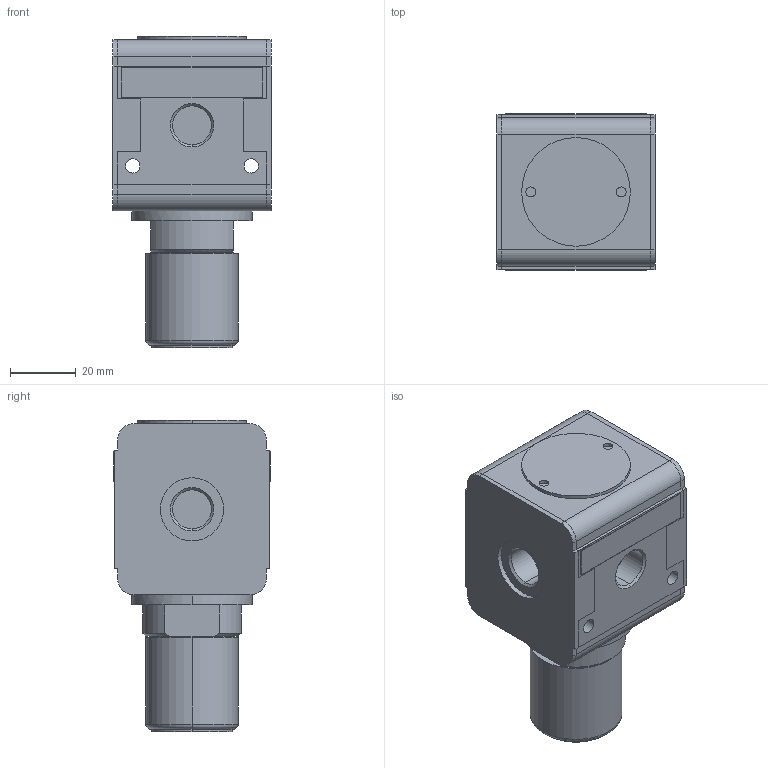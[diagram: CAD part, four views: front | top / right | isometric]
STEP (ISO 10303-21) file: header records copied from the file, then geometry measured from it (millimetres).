
FILE_DESCRIPTION((''),'2;1');
FILE_NAME('R412007613_ASM','2020-01-02T',('hug2hc'),(''),'CREO PARAMETRIC BY PTC INC, 2016260','CREO PARAMETRIC BY PTC INC, 2016260','');
FILE_SCHEMA(('CONFIG_CONTROL_DESIGN'));
Length unit declared in the file: millimetre
Products named in the file (3): R412007613-A; R412007613-B; R412007613_ASM
Assembly tree (3 placements, depth 2):
  R412007613_ASM
    R412007613-A
    R412007613-B  x2
Bounding box: 48 x 47.4 x 94.5 mm (x, y, z)
Volume: 137289.7 mm3; surface area: 30330.3 mm2
Topology: 3 solids, 3 shells, 162 faces, 416 edges, 274 vertices
Faces by surface type: plane 106, cylinder 42, cone 12, torus 2
Entity records: 4165 total; most frequent: CARTESIAN_POINT 742, DIRECTION 704, ORIENTED_EDGE 676, EDGE_CURVE 338, VECTOR 240, LINE 240, AXIS2_PLACEMENT_3D 232, VERTEX_POINT 222
